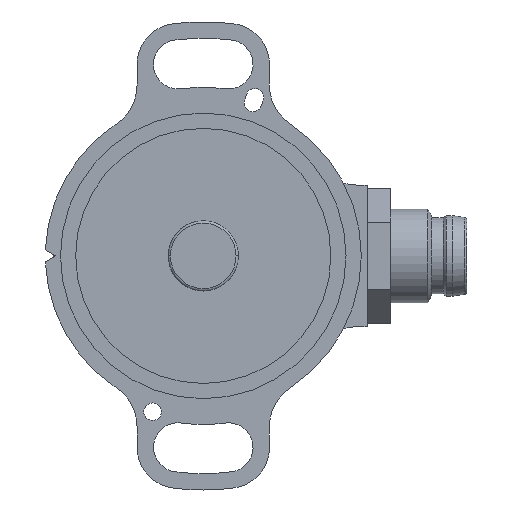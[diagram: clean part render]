
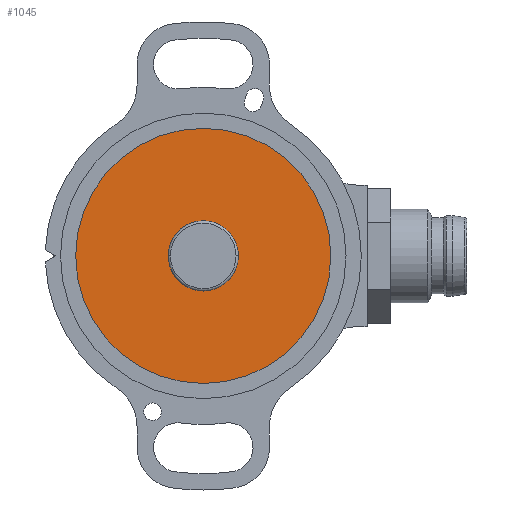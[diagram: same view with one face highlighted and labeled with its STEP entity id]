
A CAD part, front view. The second image highlights one B-rep face of the part: STEP entity #1045.
In plain terms, the highlighted planar face has unit normal (0, -1, 0).
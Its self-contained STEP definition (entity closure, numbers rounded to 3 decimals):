
#126 = CARTESIAN_POINT ( 'NONE',  ( 0., 0., -10.9 ) ) ;
#310 = DIRECTION ( 'NONE',  ( 0., -1., 0. ) ) ;
#475 = DIRECTION ( 'NONE',  ( 0., 1., 0. ) ) ;
#510 = AXIS2_PLACEMENT_3D ( 'NONE', #1693, #4333, #983 ) ;
#968 = CARTESIAN_POINT ( 'NONE',  ( 0., 0., 0. ) ) ;
#983 = DIRECTION ( 'NONE',  ( 0., 0., -1. ) ) ;
#1045 = ADVANCED_FACE ( 'NONE', ( #1619 ), #1567, .F. ) ;
#1089 = VERTEX_POINT ( 'NONE', #126 ) ;
#1518 = ORIENTED_EDGE ( 'NONE', *, *, #2307, .T. ) ;
#1567 = PLANE ( 'NONE',  #4369 ) ;
#1619 = FACE_OUTER_BOUND ( 'NONE', #4759, .T. ) ;
#1693 = CARTESIAN_POINT ( 'NONE',  ( 0., 0., 0. ) ) ;
#2072 = AXIS2_PLACEMENT_3D ( 'NONE', #968, #310, #2089 ) ;
#2089 = DIRECTION ( 'NONE',  ( 0., 0., -1. ) ) ;
#2307 = EDGE_CURVE ( 'NONE', #4640, #1089, #2593, .T. ) ;
#2317 = ORIENTED_EDGE ( 'NONE', *, *, #2837, .T. ) ;
#2593 = CIRCLE ( 'NONE', #510, 10.9 ) ;
#2837 = EDGE_CURVE ( 'NONE', #1089, #4640, #4638, .T. ) ;
#3119 = DIRECTION ( 'NONE',  ( 0., 0., 1. ) ) ;
#3883 = CARTESIAN_POINT ( 'NONE',  ( 0., 0., 10.9 ) ) ;
#4188 = CARTESIAN_POINT ( 'NONE',  ( -18.5, 0., 0. ) ) ;
#4333 = DIRECTION ( 'NONE',  ( 0., -1., 0. ) ) ;
#4369 = AXIS2_PLACEMENT_3D ( 'NONE', #4188, #475, #3119 ) ;
#4638 = CIRCLE ( 'NONE', #2072, 10.9 ) ;
#4640 = VERTEX_POINT ( 'NONE', #3883 ) ;
#4759 = EDGE_LOOP ( 'NONE', ( #2317, #1518 ) ) ;
